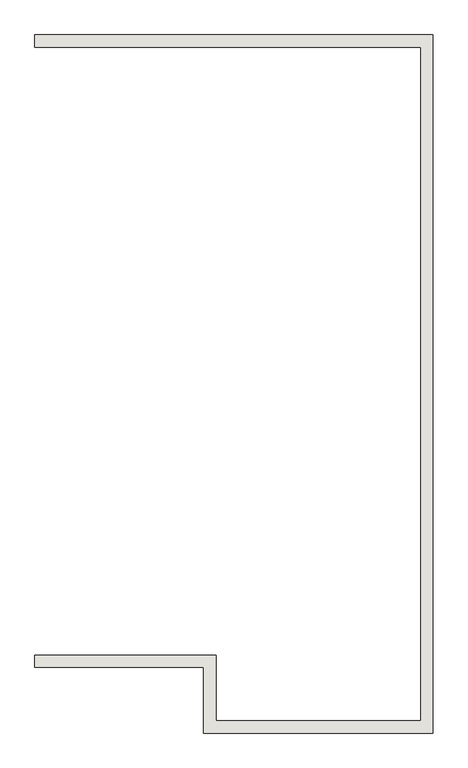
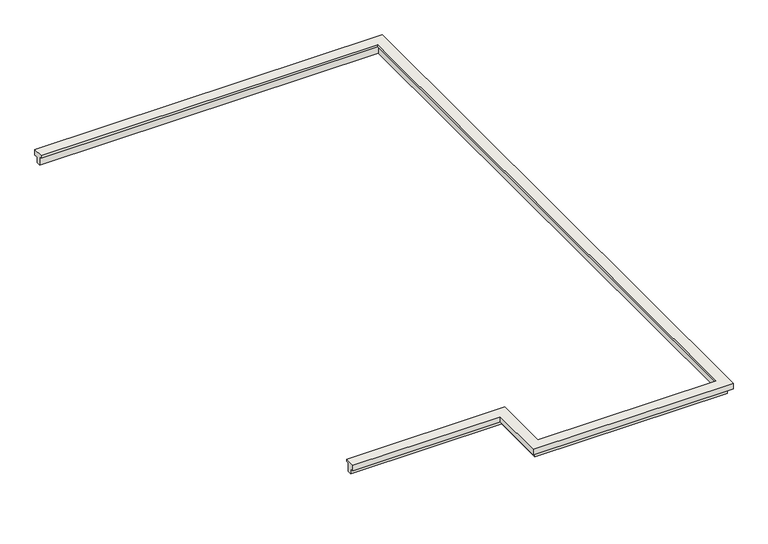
"""IFC4 building model written with IfcOpenShell, lengths in millimetres: wall geometry, 墙 2 : 墙 2."""

from ifc_helpers import new_model, si_unit, origin, place, context, project, spatial, faceted_brep, source, transform, mapped, element, save


def wall_e267aab7(model_context):
    return source(origin(), model_context, "Body", "Brep", [
        faceted_brep([(26565.1052473, 5491.231639, 3450.0), (26565.1052473, 5491.231639, 3300.0), (26565.1052473, 5371.231639, 3300.0), (26565.1052473, 5371.231639, 3540.0), (26565.1052473, 5311.231639, 3540.0), (26565.1052473, 5311.231639, 3600.0), (26565.1052473, 5591.231639, 3600.0), (26565.1052473, 5591.231639, 3450.0), (35565.1052473, 5491.231639, 3450.0), (35565.1052473, 5491.231639, 3300.0), (35565.1052473, -10248.768361, 3300.0), (30525.1052473, -10248.768361, 3300.0), (30525.1052473, -8748.768361, 3300.0), (26565.1052473, -8748.768361, 3300.0), (26565.1052473, -8628.768361, 3300.0), (30645.1052473, -8628.768361, 3300.0), (30645.1052473, -10128.768361, 3300.0), (35445.1052473, -10128.768361, 3300.0), (35445.1052473, 5371.231639, 3300.0), (35445.1052473, 5371.231639, 3540.0), (35445.1052473, -10128.768361, 3540.0), (30645.1052473, -10128.768361, 3540.0), (30645.1052473, -8628.768361, 3540.0), (26565.1052473, -8628.768361, 3540.0), (26565.1052473, -8568.768361, 3540.0), (30705.1052473, -8568.768361, 3540.0), (30705.1052473, -10068.768361, 3540.0), (35385.1052473, -10068.768361, 3540.0), (35385.1052473, 5311.231639, 3540.0), (35385.1052473, 5311.231639, 3600.0), (35385.1052473, -10068.768361, 3600.0), (30705.1052473, -10068.768361, 3600.0), (30705.1052473, -8568.768361, 3600.0), (26565.1052473, -8568.768361, 3600.0), (26565.1052473, -8848.768361, 3600.0), (30425.1052473, -8848.768361, 3600.0), (30425.1052473, -10348.768361, 3600.0), (35665.1052473, -10348.768361, 3600.0), (35665.1052473, 5591.231639, 3600.0), (35665.1052473, 5591.231639, 3450.0), (35665.1052473, -10348.768361, 3450.0), (30425.1052473, -10348.768361, 3450.0), (30425.1052473, -8848.768361, 3450.0), (26565.1052473, -8848.768361, 3450.0), (26565.1052473, -8748.768361, 3450.0), (30525.1052473, -8748.768361, 3450.0), (30525.1052473, -10248.768361, 3450.0), (35565.1052473, -10248.768361, 3450.0)], [[[0, 1, 2, 3, 4, 5, 6, 7]], [[1, 0, 8, 9]], [[2, 1, 9, 10, 11, 12, 13, 14, 15, 16, 17, 18]], [[3, 2, 18, 19]], [[4, 3, 19, 20, 21, 22, 23, 24, 25, 26, 27, 28]], [[5, 4, 28, 29]], [[6, 5, 29, 30, 31, 32, 33, 34, 35, 36, 37, 38]], [[7, 6, 38, 39]], [[0, 7, 39, 40, 41, 42, 43, 44, 45, 46, 47, 8]], [[9, 8, 47, 10]], [[19, 18, 17, 20]], [[29, 28, 27, 30]], [[39, 38, 37, 40]], [[10, 47, 46, 11]], [[20, 17, 16, 21]], [[30, 27, 26, 31]], [[40, 37, 36, 41]], [[11, 46, 45, 12]], [[21, 16, 15, 22]], [[31, 26, 25, 32]], [[41, 36, 35, 42]], [[44, 43, 34, 33, 24, 23, 14, 13]], [[12, 45, 44, 13]], [[22, 15, 14, 23]], [[32, 25, 24, 33]], [[42, 35, 34, 43]]]),
    ])


if __name__ == "__main__":
    model = new_model("IFC4")
    model_context = context("Model", 3, world=origin())
    ifc_project = project(units=[si_unit("LENGTHUNIT", "METRE", prefix="MILLI")], contexts=[model_context])
    site = spatial("IfcSite", under=ifc_project)
    building = spatial("IfcBuilding", under=site)
    placement = place(None, origin())
    wall_shape = wall_e267aab7(model_context)
    element("IfcWall", 1, ObjectType="墙 2 : 墙 2", at=placement, inside=building, context=model_context, shape_type="MappedRepresentation", body=[
        mapped(wall_shape, transform((0.0, 0.0, 0.0), x_axis=(1.0, 0.0, 0.0), y_axis=(0.0, 1.0, 0.0), z_axis=(0.0, 0.0, 1.0))),
    ])
    save(model, "model.ifc")
